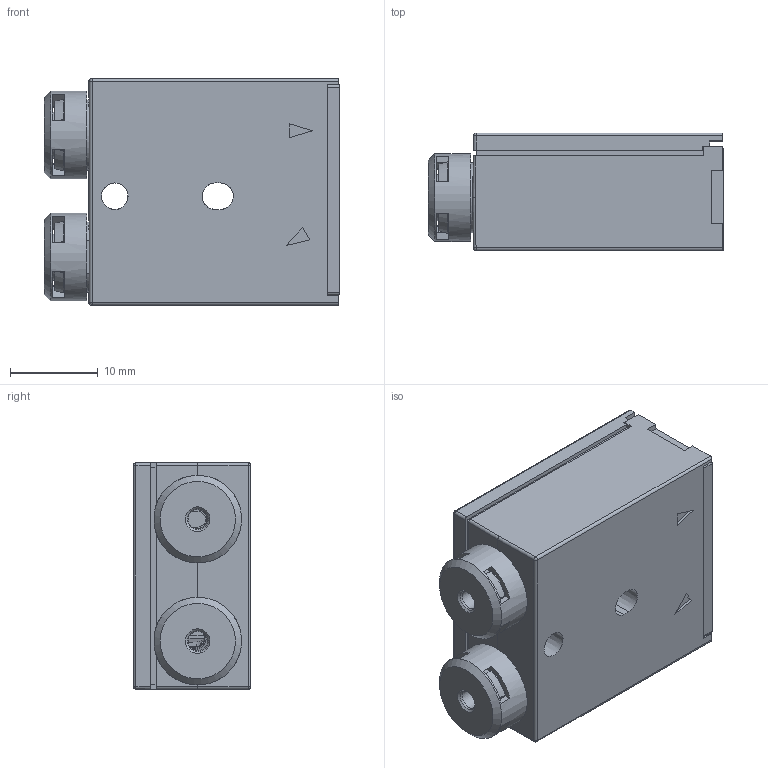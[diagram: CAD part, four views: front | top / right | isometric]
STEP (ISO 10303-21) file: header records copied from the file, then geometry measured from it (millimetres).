
FILE_DESCRIPTION(/* description */ (''),/* implementation_level */ '2;1');
FILE_NAME(/* name */ '',/* time_stamp */ '2018-10-09T11:12:42+08:00',/* author */ (''),/* organization */ (''),/* preprocessor_version */ 'ST-DEVELOPER v14',/* originating_system */ 'SIEMENS PLM Software NX 8.0',/* authorisation */ '');
FILE_SCHEMA (('AP203_CONFIGURATION_CONTROLLED_3D_DESIGN_OF_MECHANICAL_PARTS_AND_ASSEMBLIES_MIM_LF { 1 0 10303 403 2 1 2}'));
Length unit declared in the file: millimetre
Products named in the file (1): Admi20A4AEA8b75x
Bounding box: 33.65 x 13.4 x 25.8 mm (x, y, z)
Volume: 5237.4 mm3; surface area: 8132.6 mm2
Topology: 1 solids, 2 shells, 516 faces, 1513 edges, 988 vertices
Faces by surface type: plane 370, cone 69, cylinder 63, torus 10, sphere 4
Full cylindrical faces by diameter (mm): 2.2 x2, 3.1 x2, 4.5 x2, 8 x1, 10 x2
Entity records: 17571 total; most frequent: CARTESIAN_POINT 3769, ORIENTED_EDGE 2944, DIRECTION 2752, EDGE_CURVE 1472, LINE 1012, VECTOR 1012, VERTEX_POINT 974, AXIS2_PLACEMENT_3D 870
